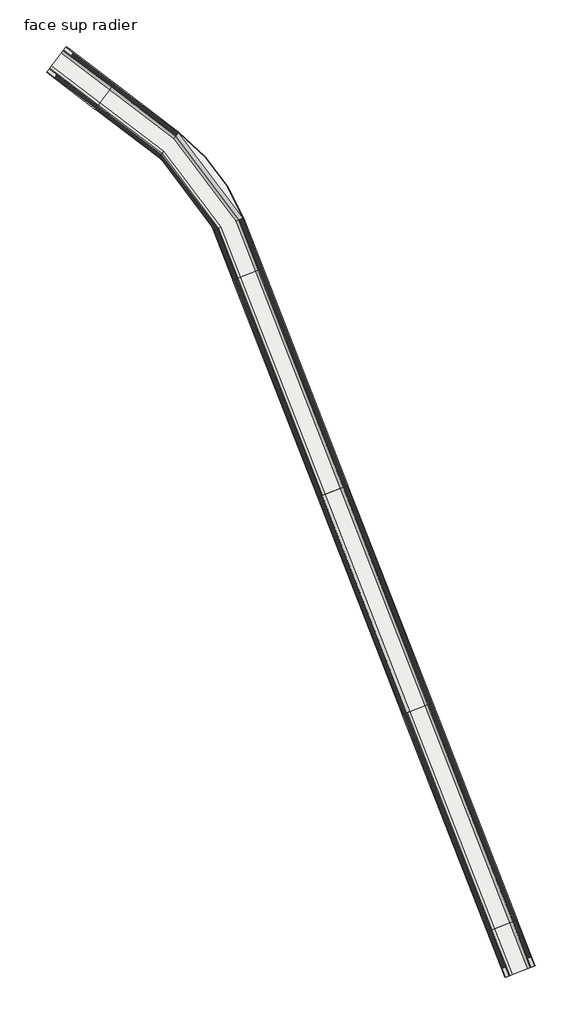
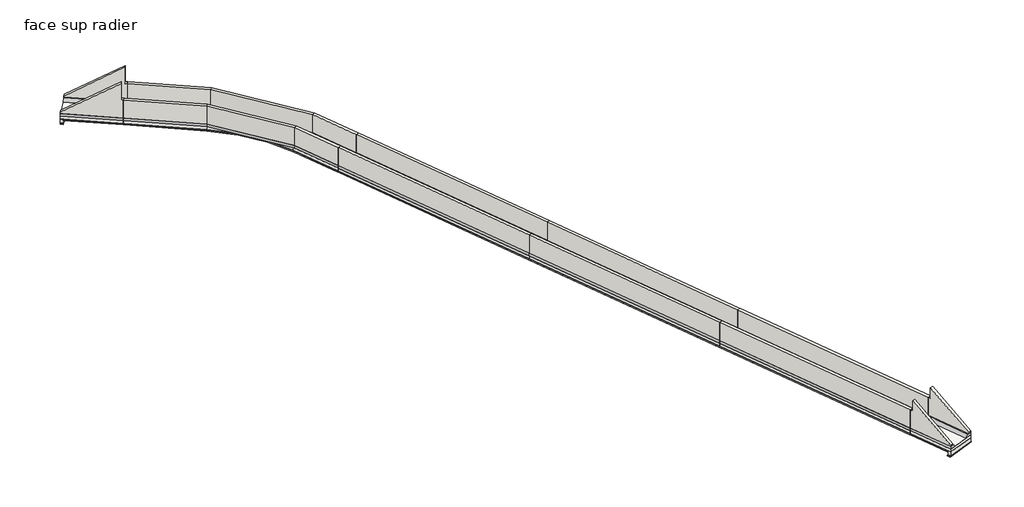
# One storey: 18 walls, 16 proxies, 14 slabs.
"""IFC4 building model written with IfcOpenShell, lengths in millimetres."""

from ifc_helpers import new_model, si_unit, point, frame, frame_2d, origin, place, context, project, spatial, polyline, circle_curve, trimmed, segment, composite_curve, outline, extrude, transform, mapped, element, save
from components import generic_models_72a42a46, generic_models_eec6437c, generic_models_388254e4, generic_models_2f8197d4, generic_models_ab7b40e1, generic_models_5d4a5f9c, generic_models_71e85ab6, generic_models_5fc66349, generic_models_194e7ed4, generic_models_1dc0fe7d, generic_models_83797bec, generic_models_2be4eea7

model = new_model("IFC4")

# Units and contexts
model_context = context("Model", 3, world=origin())
ifc_project = project(units=[si_unit("LENGTHUNIT", "METRE", prefix="MILLI")], contexts=[model_context])

# Site, building, storey
site = spatial("IfcSite", under=ifc_project)
building = spatial("IfcBuilding", under=site)
storey = spatial("IfcBuildingStorey", under=building, Name="face sup radier", Elevation=0.0)

# Proxies
placement = place(None, origin())
generic_models_shape = generic_models_72a42a46(model_context)
element("IfcBuildingElementProxy", 1, Name="Gousset radier bord droit : Gousset radier bord droit", ObjectType="Gousset radier bord droit : Gousset radier bord droit", at=placement, inside=storey, context=model_context, shape_type="MappedRepresentation", body=[
    mapped(generic_models_shape, transform((19414.9670882, -24114.5685686, 0.0), x_axis=(0.36332202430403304, -0.9316636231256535, 0.0), y_axis=(0.9316636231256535, 0.36332202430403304, 0.0), z_axis=(0.0, 0.0, 1.0))),
])
element("IfcBuildingElementProxy", 2, Name="Gousset radier bord droit : Gousset radier bord droit", ObjectType="Gousset radier bord droit : Gousset radier bord droit", at=placement, inside=storey, context=model_context, shape_type="MappedRepresentation", body=[
    mapped(generic_models_shape, transform((28686.9451499, -47890.6242347, 0.0), x_axis=(0.3633220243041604, -0.9316636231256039, 0.0), y_axis=(0.9316636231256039, 0.3633220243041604, 0.0), z_axis=(0.0, 0.0, 1.0))),
])
element("IfcBuildingElementProxy", 3, Name="Gousset radier bord droit : Gousset radier bord droit", ObjectType="Gousset radier bord droit : Gousset radier bord droit", at=placement, inside=storey, context=model_context, shape_type="MappedRepresentation", body=[
    mapped(generic_models_shape, transform((37958.9232117, -71666.6799007, 0.0), x_axis=(0.3633220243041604, -0.9316636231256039, 0.0), y_axis=(0.9316636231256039, 0.3633220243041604, 0.0), z_axis=(0.0, 0.0, 1.0))),
])
generic_models_2_shape = generic_models_eec6437c(model_context)
element("IfcBuildingElementProxy", 4, Name="Gousset radier bord droit : Gousset radier bord droit", ObjectType="Gousset radier bord droit : Gousset radier bord droit", at=placement, inside=storey, context=model_context, shape_type="MappedRepresentation", body=[
    mapped(generic_models_2_shape, transform((22537.7386278, -22896.7774592, 0.0), x_axis=(0.3633220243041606, -0.9316636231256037, 0.0), y_axis=(0.9316636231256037, 0.3633220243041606, 0.0), z_axis=(0.0, 0.0, 1.0))),
])
element("IfcBuildingElementProxy", 5, Name="Gousset radier bord droit : Gousset radier bord droit", ObjectType="Gousset radier bord droit : Gousset radier bord droit", at=placement, inside=storey, context=model_context, shape_type="MappedRepresentation", body=[
    mapped(generic_models_2_shape, transform((31809.7166896, -46672.8331252, 0.0), x_axis=(0.3633220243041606, -0.9316636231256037, 0.0), y_axis=(0.9316636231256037, 0.3633220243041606, 0.0), z_axis=(0.0, 0.0, 1.0))),
])
element("IfcBuildingElementProxy", 6, Name="Gousset radier bord droit : Gousset radier bord droit", ObjectType="Gousset radier bord droit : Gousset radier bord droit", at=placement, inside=storey, context=model_context, shape_type="MappedRepresentation", body=[
    mapped(generic_models_2_shape, transform((41081.6947513, -70448.8887913, 0.0), x_axis=(0.3633220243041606, -0.9316636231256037, 0.0), y_axis=(0.9316636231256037, 0.3633220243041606, 0.0), z_axis=(0.0, 0.0, 1.0))),
])
generic_models_3_shape = generic_models_388254e4(model_context)
element("IfcBuildingElementProxy", 7, Name="Gousset radier bord droit : Gousset radier bord droit", ObjectType="Gousset radier bord droit : Gousset radier bord droit", at=placement, inside=storey, context=model_context, shape_type="MappedRepresentation", body=[
    mapped(generic_models_3_shape, transform((6328.9008819, -2708.8061228, 0.0), x_axis=(0.7959685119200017, -0.6053380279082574, 0.0), y_axis=(0.6053380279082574, 0.7959685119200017, 0.0), z_axis=(0.0, 0.0, 1.0))),
])
generic_models_4_shape = generic_models_2f8197d4(model_context)
element("IfcBuildingElementProxy", 8, Name="Gousset radier bord droit : Gousset radier bord droit", ObjectType="Gousset radier bord droit : Gousset radier bord droit", at=placement, inside=storey, context=model_context, shape_type="MappedRepresentation", body=[
    mapped(generic_models_4_shape, transform((4301.0184884, -5375.3006377, 0.0), x_axis=(0.7959685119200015, -0.6053380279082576, 0.0), y_axis=(0.6053380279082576, 0.7959685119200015, 0.0), z_axis=(0.0, 0.0, 1.0))),
])
generic_models_5_shape = generic_models_ab7b40e1(model_context)
element("IfcBuildingElementProxy", 9, Name="Gousset radier bord droit : Gousset radier bord droit", ObjectType="Gousset radier bord droit : Gousset radier bord droit", at=placement, inside=storey, context=model_context, shape_type="MappedRepresentation", body=[
    mapped(generic_models_5_shape, transform((19407.6136611, -24095.7122372, 0.0), x_axis=(-0.363322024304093, 0.9316636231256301, 0.0), y_axis=(-0.9316636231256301, -0.363322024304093, 0.0), z_axis=(0.0, 0.0, 1.0))),
])
generic_models_6_shape = generic_models_5d4a5f9c(model_context)
element("IfcBuildingElementProxy", 10, Name="Gousset radier bord droit : Gousset radier bord droit", ObjectType="Gousset radier bord droit : Gousset radier bord droit", at=placement, inside=storey, context=model_context, shape_type="MappedRepresentation", body=[
    mapped(generic_models_6_shape, transform((22530.3852007, -22877.9211277, 0.0), x_axis=(-0.36332202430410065, 0.9316636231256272, 0.0), y_axis=(-0.9316636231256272, -0.36332202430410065, 0.0), z_axis=(0.0, 0.0, 1.0))),
])
generic_models_7_shape = generic_models_71e85ab6(model_context)
element("IfcBuildingElementProxy", 11, Name="Gousset radier courbe ext ou int : Gousset radier courbe - coté extérieur", ObjectType="Gousset radier courbe ext ou int : Gousset radier courbe - coté extérieur", at=placement, inside=storey, context=model_context, shape_type="MappedRepresentation", body=[
    mapped(generic_models_7_shape, transform((201.0759638, -25276.0628916, 0.0), x_axis=(0.9316908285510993, 0.36325225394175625, 0.0), y_axis=(-0.36325225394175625, 0.9316908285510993, 0.0), z_axis=(0.0, 0.0, 1.0))),
])
generic_models_8_shape = generic_models_5fc66349(model_context)
element("IfcBuildingElementProxy", 12, Name="Gousset radier courbe ext ou int : Gousset radier courbe - côté intérieur", ObjectType="Gousset radier courbe ext ou int : Gousset radier courbe - côté intérieur", at=placement, inside=storey, context=model_context, shape_type="MappedRepresentation", body=[
    mapped(generic_models_8_shape, transform((199.3165197, -25275.8995014, 0.0), x_axis=(0.9317220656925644, 0.3631721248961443, 0.0), y_axis=(-0.3631721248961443, 0.9317220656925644, 0.0), z_axis=(0.0, 0.0, 1.0))),
])
generic_models_9_shape = generic_models_194e7ed4(model_context)
element("IfcBuildingElementProxy", 13, Name="Gousset radier bord droit : Gousset radier bord droit", ObjectType="Gousset radier bord droit : Gousset radier bord droit", at=placement, inside=storey, context=model_context, shape_type="MappedRepresentation", body=[
    mapped(generic_models_9_shape, transform((1013.9411967, 1333.2472575, 0.0), x_axis=(0.7959685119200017, -0.6053380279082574, 0.0), y_axis=(0.6053380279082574, 0.7959685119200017, 0.0), z_axis=(0.0, 0.0, 1.0))),
])
generic_models_10_shape = generic_models_1dc0fe7d(model_context)
element("IfcBuildingElementProxy", 14, Name="Gousset radier bord droit : Gousset radier bord droit", ObjectType="Gousset radier bord droit : Gousset radier bord droit", at=placement, inside=storey, context=model_context, shape_type="MappedRepresentation", body=[
    mapped(generic_models_10_shape, transform((-1013.9411967, -1333.2472575, 0.0), x_axis=(0.7959685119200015, -0.6053380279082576, 0.0), y_axis=(0.6053380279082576, 0.7959685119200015, 0.0), z_axis=(0.0, 0.0, 1.0))),
])
generic_models_11_shape = generic_models_83797bec(model_context)
element("IfcBuildingElementProxy", 15, Name="Gousset radier bord droit : Gousset radier bord droit", ObjectType="Gousset radier bord droit : Gousset radier bord droit", at=placement, inside=storey, context=model_context, shape_type="MappedRepresentation", body=[
    mapped(generic_models_11_shape, transform((47231.7567971, -95442.4205908, 0.0), x_axis=(0.36332202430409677, -0.9316636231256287, 0.0), y_axis=(0.9316636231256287, 0.36332202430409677, 0.0), z_axis=(0.0, 0.0, 1.0))),
])
generic_models_12_shape = generic_models_2be4eea7(model_context)
element("IfcBuildingElementProxy", 16, Name="Gousset radier bord droit : Gousset radier bord droit", ObjectType="Gousset radier bord droit : Gousset radier bord droit", at=placement, inside=storey, context=model_context, shape_type="MappedRepresentation", body=[
    mapped(generic_models_12_shape, transform((50352.8299177, -94225.2918159, 0.0), x_axis=(0.36332202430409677, -0.9316636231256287, 0.0), y_axis=(0.9316636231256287, 0.36332202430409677, 0.0), z_axis=(0.0, 0.0, 1.0))),
])

# Slabs
element("IfcSlab", 17, ObjectType="Dalle en béton - 350 mm", at=placement, inside=storey, context=model_context, shape_type="SweptSolid", body=[
    extrude(outline(polyline([(22536.8894183, -22897.1086265), (31801.6010385, -46654.5310175), (28679.6787084, -47871.9909596), (19414.9670882, -24114.5685686), (22536.8894183, -22897.1086265)])), frame((0.0, 0.0, -350.0), z_axis=(0.0, 0.0, 1.0), x_axis=(1.0, 0.0, 0.0)), (0.0, 0.0, 1.0), 350.0),
])
element("IfcSlab", 18, ObjectType="Dalle en béton - 350 mm", at=placement, inside=storey, context=model_context, shape_type="SweptSolid", body=[
    extrude(outline(polyline([(31808.86748, -46673.1642925), (41073.5791003, -70430.5866835), (37951.6567702, -71648.0466256), (28686.9451499, -47890.6242347), (31808.86748, -46673.1642925)])), frame((0.0, 0.0, -350.0), z_axis=(0.0, 0.0, 1.0), x_axis=(1.0, 0.0, 0.0)), (0.0, 0.0, 1.0), 350.0),
])
element("IfcSlab", 19, ObjectType="Béton de propreté 100 mm", at=placement, inside=storey, context=model_context, shape_type="SweptSolid", body=[
    extrude(outline(polyline([(22630.9049902, -22860.4452567), (31894.7674009, -46618.198815), (28586.5123461, -47908.323162), (19321.8007258, -24150.900771), (22630.9049902, -22860.4452567)])), frame((0.0, 0.0, -450.0), z_axis=(0.0, 0.0, 1.0), x_axis=(1.0, 0.0, 0.0)), (0.0, 0.0, 1.0), 100.0),
])
element("IfcSlab", 20, ObjectType="Béton de propreté 100 mm", at=placement, inside=storey, context=model_context, shape_type="SweptSolid", body=[
    extrude(outline(polyline([(31902.8830519, -46636.5009228), (41166.7454626, -70394.254481), (37858.4904078, -71684.3788281), (28593.7787876, -47926.9564371), (31902.8830519, -46636.5009228)])), frame((0.0, 0.0, -450.0), z_axis=(0.0, 0.0, 1.0), x_axis=(1.0, 0.0, 0.0)), (0.0, 0.0, 1.0), 100.0),
])
element("IfcSlab", 21, ObjectType="Dalle en béton - 350 mm", at=placement, inside=storey, context=model_context, shape_type="SweptSolid", body=[
    extrude(outline(composite_curve([segment(trimmed(circle_curve(frame_2d((199.7617032, -25280.6604611)), 21676.6863321), [point((13321.4842591, -8026.700698))], [point((20394.3224536, -17402.9421086))], False, "CARTESIAN"), True, "CONTINUOUS"), segment(polyline([(20394.3224536, -17402.9421086), (22529.5359912, -22878.252295), (19407.6136611, -24095.7122372), (17206.8076618, -18452.2038508)]), True, "CONTINUOUS"), segment(trimmed(circle_curve(frame_2d((199.7617032, -25280.6604611)), 18326.6863321), [point((17206.8076618, -18452.2038508))], [point((11293.6018656, -10693.1952129))], True, "CARTESIAN"), True, "CONTINUOUS"), segment(polyline([(11293.6018656, -10693.1952129), (4301.0184884, -5375.3006377), (6328.9008819, -2708.8061228), (13321.4842591, -8026.700698)]), True, "CONTINUOUS")], self_intersect=False)), frame((0.0, 0.0, -350.0), z_axis=(0.0, 0.0, 1.0), x_axis=(1.0, 0.0, 0.0)), (0.0, 0.0, 1.0), 350.0),
])
element("IfcSlab", 22, ObjectType="Béton de propreté 100 mm", at=placement, inside=storey, context=model_context, shape_type="SweptSolid", body=[
    extrude(outline(composite_curve([segment(polyline([(4249.3035036, -5461.6043367), (6386.1812958, -2626.7349605), (13374.2389273, -7943.0541841)]), True, "CONTINUOUS"), segment(trimmed(circle_curve(frame_2d((222.2637876, -25269.207986)), 21752.4724029), [point((13374.2389273, -7943.0541841))], [point((20488.2510384, -17366.0556789))], False, "CARTESIAN"), True, "CONTINUOUS"), segment(polyline([(20488.2510384, -17366.0556789), (22623.551563, -22841.5889253), (19314.4472985, -24132.0444397), (17179.5761262, -18656.4008068)]), True, "CONTINUOUS"), segment(trimmed(circle_curve(frame_2d((195.3771408, -25286.3122702)), 18232.3542414), [point((17179.5761262, -18656.4008068))], [point((11234.5698788, -10775.8000504))], True, "CARTESIAN"), True, "CONTINUOUS"), segment(polyline([(11234.5698788, -10775.8000504), (4249.3035036, -5461.6043367)]), True, "CONTINUOUS")], self_intersect=False)), frame((0.0, 0.0, -450.0), z_axis=(0.0, 0.0, 1.0), x_axis=(1.0, 0.0, 0.0)), (0.0, 0.0, 1.0), 100.0),
])
element("IfcSlab", 23, ObjectType="Dalle en béton - 350 mm", at=placement, inside=storey, context=model_context, shape_type="SweptSolid", body=[
    extrude(outline(polyline([(6312.9815116, -2696.6993623), (4285.0991181, -5363.1938772), (-1013.9411967, -1333.2472575), (1013.9411967, 1333.2472575), (6312.9815116, -2696.6993623)])), frame((0.0, 0.0, -350.0), z_axis=(0.0, 0.0, 1.0), x_axis=(1.0, 0.0, 0.0)), (0.0, 0.0, 1.0), 350.0),
])
element("IfcSlab", 24, ObjectType="Béton de propreté 100 mm", at=placement, inside=storey, context=model_context, shape_type="SweptSolid", body=[
    extrude(outline(polyline([(1353.0639787, 1200.9757989), (6373.5153144, -2617.1025111), (4224.5653153, -5442.7907284), (-795.8860204, -1624.7124184), (1353.0639787, 1200.9757989)])), frame((0.0, 0.0, -450.0), z_axis=(0.0, 0.0, 1.0), x_axis=(1.0, 0.0, 0.0)), (0.0, 0.0, 1.0), 100.0),
])
element("IfcSlab", 25, ObjectType="Béton de propreté 100 mm", at=placement, inside=storey, context=model_context, shape_type="SweptSolid", body=[
    extrude(outline(polyline([(-1074.4749995, -1412.8441087), (1074.4749995, 1412.8441087), (1353.0639787, 1200.9757989), (-795.8860204, -1624.7124184), (-1074.4749995, -1412.8441087)])), frame((0.0, 0.0, -950.0), z_axis=(0.0, 0.0, 1.0), x_axis=(1.0, 0.0, 0.0)), (0.0, 0.0, 1.0), 100.0),
])
element("IfcSlab", 26, ObjectType="Dalle en béton - 350 mm", at=placement, inside=storey, context=model_context, shape_type="SweptSolid", body=[
    extrude(outline(polyline([(50352.8299177, -94225.2918159), (52296.8727693, -99210.3846138), (49174.9504392, -100427.8445559), (47230.9075876, -95442.7517581), (50352.8299177, -94225.2918159)])), frame((0.0, 0.0, -350.0), z_axis=(0.0, 0.0, 1.0), x_axis=(1.0, 0.0, 0.0)), (0.0, 0.0, 1.0), 350.0),
])
element("IfcSlab", 27, ObjectType="Béton de propreté 100 mm", at=placement, inside=storey, context=model_context, shape_type="SweptSolid", body=[
    extrude(outline(polyline([(48954.6213684, -100138.0944902), (47137.7412253, -95479.0839605), (50446.8454895, -94188.6284462), (52263.7256326, -98847.6389759), (48954.6213684, -100138.0944902)])), frame((0.0, 0.0, -450.0), z_axis=(0.0, 0.0, 1.0), x_axis=(1.0, 0.0, 0.0)), (0.0, 0.0, 1.0), 100.0),
])
element("IfcSlab", 28, ObjectType="Béton de propreté 100 mm", at=placement, inside=storey, context=model_context, shape_type="SweptSolid", body=[
    extrude(outline(polyline([(52262.8764231, -98847.9701432), (52390.0391316, -99174.0524113), (49081.7840769, -100464.1767583), (48954.6213684, -100138.0944902), (52262.8764231, -98847.9701432)])), frame((0.0, 0.0, -950.0), z_axis=(0.0, 0.0, 1.0), x_axis=(1.0, 0.0, 0.0)), (0.0, 0.0, 1.0), 100.0),
])
element("IfcSlab", 29, ObjectType="Dalle en béton - 350 mm", at=placement, inside=storey, context=model_context, shape_type="SweptSolid", body=[
    extrude(outline(polyline([(41080.8455418, -70449.2199586), (50345.557162, -94206.6423495), (47223.6348319, -95424.1022917), (37958.9232117, -71666.6799007), (41080.8455418, -70449.2199586)])), frame((0.0, 0.0, -350.0), z_axis=(0.0, 0.0, 1.0), x_axis=(1.0, 0.0, 0.0)), (0.0, 0.0, 1.0), 350.0),
])
element("IfcSlab", 30, ObjectType="Béton de propreté 100 mm", at=placement, inside=storey, context=model_context, shape_type="SweptSolid", body=[
    extrude(outline(polyline([(41174.8611137, -70412.5565888), (50438.7235244, -94170.3101471), (47130.4684696, -95460.4344941), (37865.7568493, -71703.0121031), (41174.8611137, -70412.5565888)])), frame((0.0, 0.0, -450.0), z_axis=(0.0, 0.0, 1.0), x_axis=(1.0, 0.0, 0.0)), (0.0, 0.0, 1.0), 100.0),
])

# Walls
element("IfcWall", 31, ObjectType="Voile BA 350 mm", at=placement, inside=storey, context=model_context, shape_type="SweptSolid", body=[
    extrude(outline(polyline([(31476.36798, -46781.3625587), (22211.6563597, -23023.9401677), (22537.7386278, -22896.7774592), (31802.4502481, -46654.1998502), (31476.36798, -46781.3625587)])), frame((0.0, 0.0, 350.0), z_axis=(0.0, 0.0, 1.0), x_axis=(1.0, 0.0, 0.0)), (0.0, 0.0, 1.0), 2300.0),
])
element("IfcWall", 32, ObjectType="Voile BA 350 mm", at=placement, inside=storey, context=model_context, shape_type="SweptSolid", body=[
    extrude(outline(polyline([(19741.0493563, -23987.4058601), (29005.7609765, -47744.8282511), (28679.6787084, -47871.9909596), (19414.9670882, -24114.5685686), (19741.0493563, -23987.4058601)])), frame((0.0, 0.0, 350.0), z_axis=(0.0, 0.0, 1.0), x_axis=(1.0, 0.0, 0.0)), (0.0, 0.0, 1.0), 2300.0),
])
element("IfcWall", 33, ObjectType="Voile BA 350 mm", at=placement, inside=storey, context=model_context, shape_type="SweptSolid", body=[
    extrude(outline(polyline([(40748.3460417, -70557.4182247), (31483.6344215, -46799.9958337), (31809.7166896, -46672.8331252), (41074.4283098, -70430.2555162), (40748.3460417, -70557.4182247)])), frame((0.0, 0.0, 350.0), z_axis=(0.0, 0.0, 1.0), x_axis=(1.0, 0.0, 0.0)), (0.0, 0.0, 1.0), 2300.0),
])
element("IfcWall", 34, ObjectType="Voile BA 350 mm", at=placement, inside=storey, context=model_context, shape_type="SweptSolid", body=[
    extrude(outline(polyline([(29013.027418, -47763.4615261), (38277.7390383, -71520.8839171), (37951.6567702, -71648.0466256), (28686.9451499, -47890.6242347), (29013.027418, -47763.4615261)])), frame((0.0, 0.0, 350.0), z_axis=(0.0, 0.0, 1.0), x_axis=(1.0, 0.0, 0.0)), (0.0, 0.0, 1.0), 2300.0),
])
element("IfcWall", 35, ObjectType="Voile BA 350 mm", at=placement, inside=storey, context=model_context, shape_type="SweptSolid", body=[
    extrude(outline(polyline([(13109.6159493, -8305.2896772), (6117.0325721, -2987.395102), (6328.9008819, -2708.8061228), (13321.4842591, -8026.700698), (13109.6159493, -8305.2896772)])), frame((0.0, 0.0, 350.0), z_axis=(0.0, 0.0, 1.0), x_axis=(1.0, 0.0, 0.0)), (0.0, 0.0, 1.0), 2300.0),
])
element("IfcWall", 36, ObjectType="Voile BA 350 mm", at=placement, inside=storey, context=model_context, shape_type="SweptSolid", body=[
    extrude(outline(polyline([(22204.2824777, -23005.0313714), (20071.5914373, -17533.5891393), (20397.6941603, -17406.4788956), (22530.3852007, -22877.9211277), (22204.2824777, -23005.0313714)])), frame((0.0, 0.0, 350.0), z_axis=(0.0, 0.0, 1.0), x_axis=(1.0, 0.0, 0.0)), (0.0, 0.0, 1.0), 2300.0),
])
element("IfcWall", 37, ObjectType="Voile BA 350 mm", at=placement, inside=storey, context=model_context, shape_type="SweptSolid", body=[
    extrude(outline(polyline([(17601.3431851, -18497.9734667), (19733.7163976, -23968.6020282), (19407.6136611, -24095.7122372), (17275.2404486, -18625.0836757), (17601.3431851, -18497.9734667)])), frame((0.0, 0.0, 350.0), z_axis=(0.0, 0.0, 1.0), x_axis=(1.0, 0.0, 0.0)), (0.0, 0.0, 1.0), 2300.0),
])
element("IfcWall", 38, ObjectType="Voile BA 350 mm", at=placement, inside=storey, context=model_context, shape_type="SweptSolid", body=[
    extrude(outline(composite_curve([segment(polyline([(20395.9609855, -17407.1437823), (20069.865491, -17534.2725692)]), True, "CONTINUOUS"), segment(trimmed(circle_curve(frame_2d((199.7617032, -25280.6604611)), 21326.6863321), [point((20069.865491, -17534.2725692))], [point((13109.6159493, -8305.2896772))], True, "CARTESIAN"), True, "CONTINUOUS"), segment(polyline([(13109.6159493, -8305.2896772), (13321.4842591, -8026.700698)]), True, "CONTINUOUS"), segment(trimmed(circle_curve(frame_2d((199.7617032, -25280.6604611)), 21676.6863321), [point((13321.4842591, -8026.700698))], [point((20395.9609855, -17407.1437823))], False, "CARTESIAN"), True, "CONTINUOUS")], self_intersect=False)), frame((0.0, 0.0, 350.0), z_axis=(0.0, 0.0, 1.0), x_axis=(1.0, 0.0, 0.0)), (0.0, 0.0, 1.0), 2300.0),
])
element("IfcWall", 39, ObjectType="Voile BA 350 mm", at=placement, inside=storey, context=model_context, shape_type="SweptSolid", body=[
    extrude(outline(composite_curve([segment(polyline([(11293.6013568, -10693.1948259), (11505.4706842, -10414.6066207)]), True, "CONTINUOUS"), segment(trimmed(circle_curve(frame_2d((199.422677, -25280.9945985)), 18677.1575205), [point((11505.4706842, -10414.6066207))], [point((17601.3431851, -18497.9734667))], False, "CARTESIAN"), True, "CONTINUOUS"), segment(polyline([(17601.3431851, -18497.9734667), (17275.2404486, -18625.0836757)]), True, "CONTINUOUS"), segment(trimmed(circle_curve(frame_2d((199.422677, -25280.9945985)), 18327.1575205), [point((17275.2404486, -18625.0836757))], [point((11293.6013568, -10693.1948259))], True, "CARTESIAN"), True, "CONTINUOUS")], self_intersect=False)), frame((0.0, 0.0, 350.0), z_axis=(0.0, 0.0, 1.0), x_axis=(1.0, 0.0, 0.0)), (0.0, 0.0, 1.0), 2300.0),
])
element("IfcWall", 40, ObjectType="Voile BA 350 mm", at=placement, inside=storey, context=model_context, shape_type="SweptSolid", body=[
    extrude(outline(polyline([(4512.8867981, -5096.7116586), (11505.4701754, -10414.6062337), (11293.6018656, -10693.1952129), (4301.0184884, -5375.3006377), (4512.8867981, -5096.7116586)])), frame((0.0, 0.0, 350.0), z_axis=(0.0, 0.0, 1.0), x_axis=(1.0, 0.0, 0.0)), (0.0, 0.0, 1.0), 2300.0),
])
element("IfcWall", 41, ObjectType="Voile BA 350 mm", at=placement, inside=storey, context=model_context, shape_type="SweptSolid", body=[
    extrude(outline(polyline([(0.0, 0.0), (0.0, -2300.0), (-250.0, -2300.0), (-250.0, -4360.0), (-6657.3491733, -150.0), (-6657.3491733, 0.0), (0.0, 0.0)])), frame((4285.0991181, -5363.1938772, 350.0), z_axis=(0.6053380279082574, 0.7959685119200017, 0.0), x_axis=(0.7959685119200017, -0.6053380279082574, 0.0)), (0.0, 0.0, 1.0), 350.0),
])
element("IfcWall", 42, ObjectType="Voile BA 350 mm", at=placement, inside=storey, context=model_context, shape_type="SweptSolid", body=[
    extrude(outline(polyline([(0.0, 0.0), (0.0, -2300.0), (-250.0, -2300.0), (-250.0, -4360.0), (-6657.3491734, -150.0), (-6657.3491734, 0.0), (0.0, 0.0)])), frame((6101.1132019, -2975.2883414, 350.0), z_axis=(0.6053380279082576, 0.7959685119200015, 0.0), x_axis=(0.7959685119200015, -0.6053380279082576, 0.0)), (0.0, 0.0, 1.0), 350.0),
])
element("IfcWall", 43, ObjectType="Voile BA 350 mm", at=placement, inside=storey, context=model_context, shape_type="SweptSolid", body=[
    extrude(outline(polyline([(1292.5301759, 1121.3789477), (-735.3522176, -1545.1155672), (-1013.9411967, -1333.2472575), (1013.9411967, 1333.2472575), (1292.5301759, 1121.3789477)])), frame((0.0, 0.0, -850.0), z_axis=(0.0, 0.0, 1.0), x_axis=(1.0, 0.0, 0.0)), (0.0, 0.0, 1.0), 500.0),
])
element("IfcWall", 44, ObjectType="Voile BA 350 mm", at=placement, inside=storey, context=model_context, shape_type="SweptSolid", body=[
    extrude(outline(polyline([(0.0, 0.0), (0.0, -150.0), (-5100.7432018, -3600.0), (-5100.7432018, -2300.0), (-5350.7432018, -2300.0), (-5350.7432018, 0.0), (0.0, 0.0)])), frame((49174.9504392, -100427.8445559, 350.0), z_axis=(0.9316636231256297, 0.36332202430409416, 0.0), x_axis=(0.36332202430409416, -0.9316636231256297, 0.0)), (0.0, 0.0, 1.0), 350.0),
])
element("IfcWall", 45, ObjectType="Voile BA 350 mm", at=placement, inside=storey, context=model_context, shape_type="SweptSolid", body=[
    extrude(outline(polyline([(0.0, 0.0), (0.0, -149.9800441), (-5100.7413753, -3599.9788087), (-5100.7413753, -2300.0), (-5350.7432019, -2300.0), (-5350.7432019, 0.0), (0.0, 0.0)])), frame((51971.6397107, -99337.216155, 350.0), z_axis=(0.9316636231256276, 0.36332202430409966, 0.0), x_axis=(0.36332202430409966, -0.9316636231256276, 0.0)), (0.0, 0.0, 1.0), 350.0),
])
element("IfcWall", 46, ObjectType="Voile BA 350 mm", at=placement, inside=storey, context=model_context, shape_type="SweptSolid", body=[
    extrude(outline(polyline([(49047.7877307, -100101.7622878), (52169.7100608, -98884.3023457), (52296.8727693, -99210.3846138), (49174.9504392, -100427.8445559), (49047.7877307, -100101.7622878)])), frame((0.0, 0.0, -850.0), z_axis=(0.0, 0.0, 1.0), x_axis=(1.0, 0.0, 0.0)), (0.0, 0.0, 1.0), 500.0),
])
element("IfcWall", 47, ObjectType="Voile BA 350 mm", at=placement, inside=storey, context=model_context, shape_type="SweptSolid", body=[
    extrude(outline(polyline([(50020.3241035, -94333.4738907), (40755.6124832, -70576.0514998), (41081.6947513, -70448.8887913), (50346.4063716, -94206.3111822), (50020.3241035, -94333.4738907)])), frame((0.0, 0.0, 350.0), z_axis=(0.0, 0.0, 1.0), x_axis=(1.0, 0.0, 0.0)), (0.0, 0.0, 1.0), 2300.0),
])
element("IfcWall", 48, ObjectType="Voile BA 350 mm", at=placement, inside=storey, context=model_context, shape_type="SweptSolid", body=[
    extrude(outline(polyline([(38285.0054798, -71539.5171922), (47549.7171, -95296.9395832), (47223.6348319, -95424.1022917), (37958.9232117, -71666.6799007), (38285.0054798, -71539.5171922)])), frame((0.0, 0.0, 350.0), z_axis=(0.0, 0.0, 1.0), x_axis=(1.0, 0.0, 0.0)), (0.0, 0.0, 1.0), 2300.0),
])

save(model, "model.ifc")
